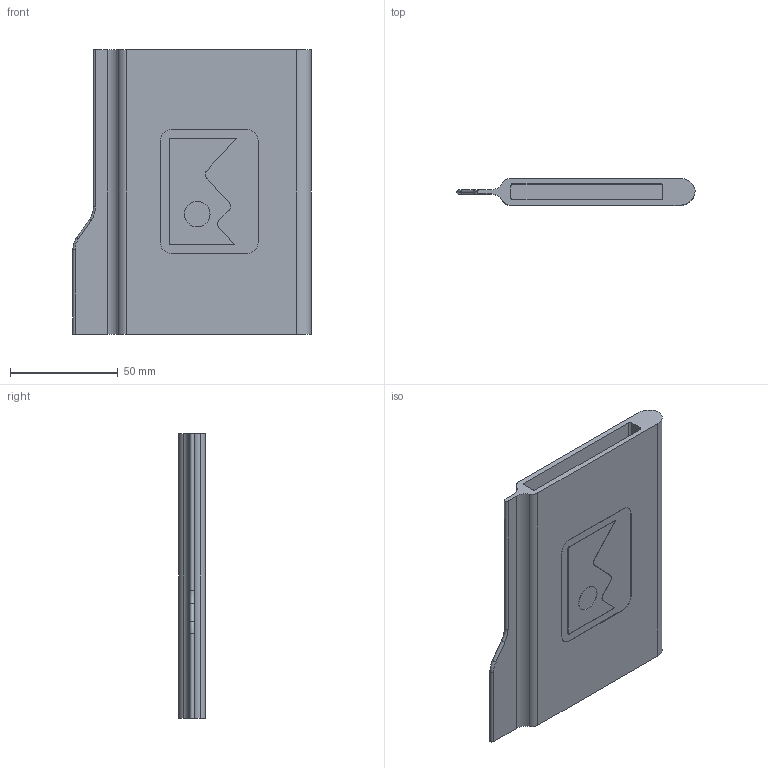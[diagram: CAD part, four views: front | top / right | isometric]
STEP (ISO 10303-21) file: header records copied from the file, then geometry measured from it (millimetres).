
FILE_DESCRIPTION(/* description */ (''),/* implementation_level */ '2;1');
FILE_NAME(/* name */ 'shell photo.step',/* time_stamp */ '2025-09-12T21:18:07+02:00',/* author */ (''),/* organization */ (''),/* preprocessor_version */ 'ST-DEVELOPER v20.1',/* originating_system */ 'Autodesk Translation Framework v14.10.0.0',/* authorisation */ '');
FILE_SCHEMA (('AUTOMOTIVE_DESIGN { 1 0 10303 214 3 1 1 }'));
Length unit declared in the file: millimetre
Products named in the file (1): case tipo3
Bounding box: 110.5 x 12.5 x 132 mm (x, y, z)
Volume: 84393.6 mm3; surface area: 50362.7 mm2
Topology: 1 solids, 1 shells, 51 faces, 136 edges, 91 vertices
Faces by surface type: plane 25, cylinder 24, torus 2
Full cylindrical faces by diameter (mm): 11.877 x1
Entity records: 1644 total; most frequent: DIRECTION 289, CARTESIAN_POINT 289, ORIENTED_EDGE 272, EDGE_CURVE 136, AXIS2_PLACEMENT_3D 103, VERTEX_POINT 91, LINE 83, VECTOR 83
